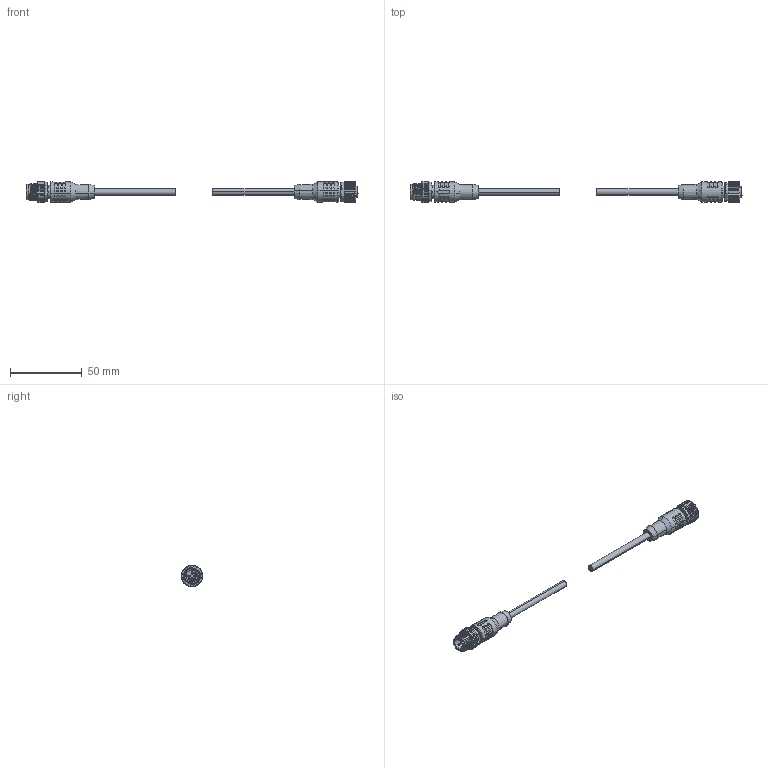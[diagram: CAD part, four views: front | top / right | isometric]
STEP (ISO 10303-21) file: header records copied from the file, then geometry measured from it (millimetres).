
FILE_DESCRIPTION (( 'STEP AP203' ), '1' );
FILE_NAME ('64D121-XXX.STEP', '2024-12-06T08:23:14', ( 'L' ), ( '' ), 'SwSTEP 2.0', 'SolidWorks 2019', '' );
FILE_SCHEMA (( 'CONFIG_CONTROL_DESIGN' ));
Products named in the file (1): 64D121-XXX
Bounding box: 231.45 x 14.99 x 15 mm (x, y, z)
Volume: 11933.8 mm3; surface area: 9013.9 mm2
Topology: 2 solids, 2 shells, 1296 faces, 3711 edges, 2471 vertices
Faces by surface type: plane 614, cylinder 356, bspline 165, cone 127, torus 34
Entity records: 68989 total; most frequent: CARTESIAN_POINT 38252, ORIENTED_EDGE 7422, DIRECTION 4899, EDGE_CURVE 3711, VERTEX_POINT 2471, AXIS2_PLACEMENT_3D 1695, B_SPLINE_CURVE_WITH_KNOTS 1589, LINE 1509
